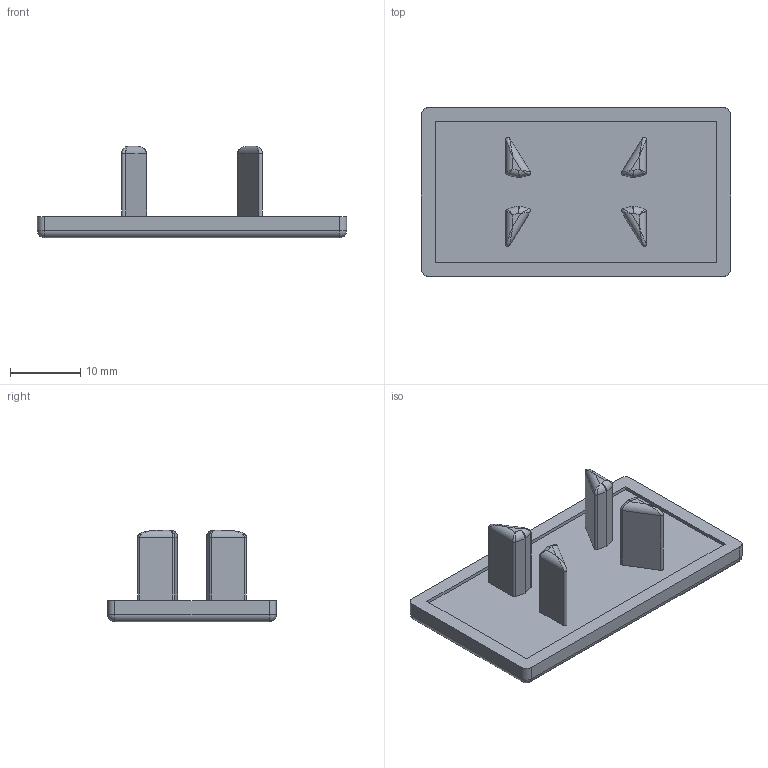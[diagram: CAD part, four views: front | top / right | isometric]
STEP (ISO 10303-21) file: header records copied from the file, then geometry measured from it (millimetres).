
FILE_DESCRIPTION (( 'STEP AP214' ), '1' );
FILE_NAME ('FBEC 24x44.step', '2017-04-05T08:00:52', ( '' ), ( '' ), 'SwSTEP 2.0', 'SolidWorks 2015', '' );
FILE_SCHEMA (( 'AUTOMOTIVE_DESIGN' ));
Length unit declared in the file: millimetre
Products named in the file (1): FBEC 24x44
Bounding box: 44 x 24 x 13 mm (x, y, z)
Volume: 3219.7 mm3; surface area: 3125.2 mm2
Topology: 1 solids, 1 shells, 93 faces, 218 edges, 112 vertices
Faces by surface type: cylinder 42, plane 31, bspline 16, sphere 4
Entity records: 2930 total; most frequent: CARTESIAN_POINT 1036, ORIENTED_EDGE 396, DIRECTION 374, EDGE_CURVE 198, AXIS2_PLACEMENT_3D 130, LINE 114, VECTOR 114, VERTEX_POINT 112
